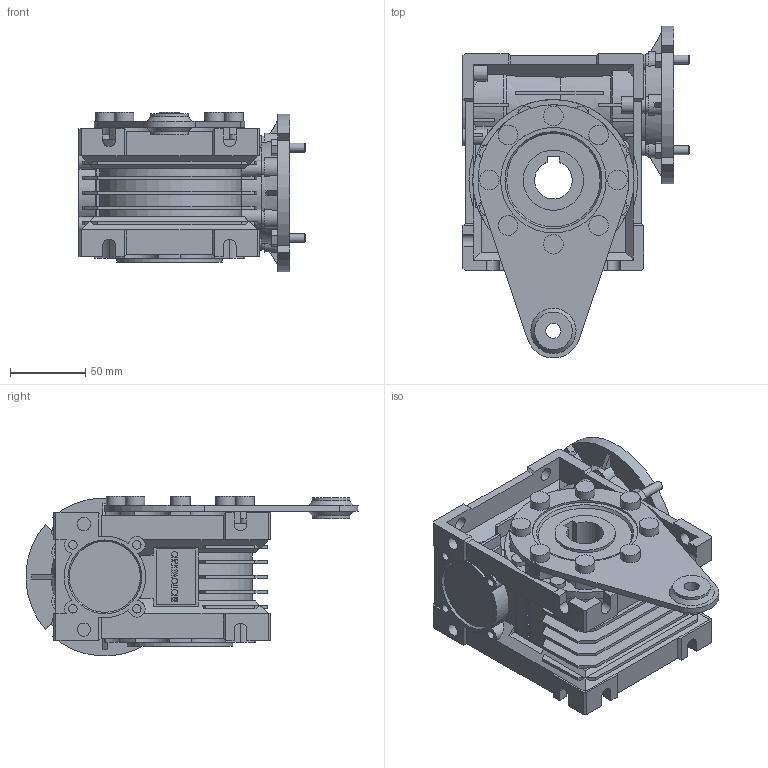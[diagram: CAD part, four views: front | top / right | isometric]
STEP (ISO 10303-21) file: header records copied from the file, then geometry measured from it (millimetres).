
FILE_DESCRIPTION(/* description */ ('STEP AP203'),/* implementation_level */ '2;1');
FILE_NAME(/* name */ 'NMRV0501332511100150NO---_---------------',/* time_stamp */ '2025-12-03T05:24:08+01:00',/* author */ ('License CC BY-ND 4.0'),/* organization */ ('CADENAS'),/* preprocessor_version */ 'ST-DEVELOPER v20',/* originating_system */ 'PARTsolutions',/* authorisation */ ' ');
FILE_SCHEMA (('CONFIG_CONTROL_DESIGN'));
Length unit declared in the file: millimetre
Products named in the file (6): NMRV0501332511100150NO---(---------------); Gear unit 50; 050-25 (92)alc-n; 50-100; VB 050-14 (14); 50-71 B14
Assembly tree (5 placements, depth 2):
  NMRV0501332511100150NO---(---------------)
    Gear unit 50
    050-25 (92)alc-n
    50-100
    VB 050-14 (14)
    50-71 B14
Bounding box: 150 x 220.27 x 105.83 mm (x, y, z)
Volume: 1103680.1 mm3; surface area: 253081.4 mm2
Topology: 5 solids, 10 shells, 983 faces, 2600 edges, 1696 vertices
Faces by surface type: plane 669, cylinder 232, cone 80, torus 2
Full cylindrical faces by diameter (mm): 3.775 x3, 5.55 x4, 6 x4, 6.647 x8, 8.8 x8, 10 x15, 13 x8, 16 x1, 25 x2, 28 x2, 34 x1, 40 x2, 47 x2, 55 x1, 70 x3, 107 x1
Entity records: 30113 total; most frequent: CARTESIAN_POINT 5828, DIRECTION 4997, ORIENTED_EDGE 4956, EDGE_CURVE 2478, AXIS2_PLACEMENT_3D 1734, VERTEX_POINT 1675, LINE 1529, VECTOR 1529
